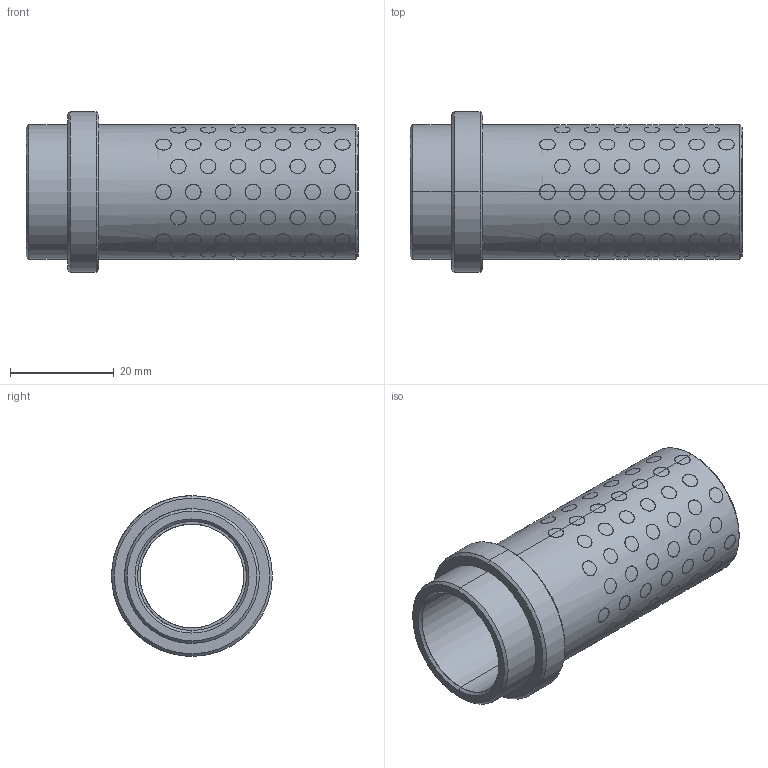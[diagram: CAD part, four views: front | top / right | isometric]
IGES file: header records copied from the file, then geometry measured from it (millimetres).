
Start section: START RECORD GO HERE.
Global section: file name: G31220056.igs; native system: DASSAULT SYSTEMES CATIA V5 R20 - www.3ds.com; preprocessor: CATIA Version 5 Release 20 ; author: r.borello; organization: CFTORINO; date: 20190624.121616; units: millimetre
Bounding box: 64 x 31 x 31 mm (x, y, z)
Surface area: 15958.4 mm2 (no closed solid volume)
Topology: 0 solids, 0 shells, 679 faces, 2940 edges, 2940 vertices
Faces by surface type: revolution 674, plane 5
